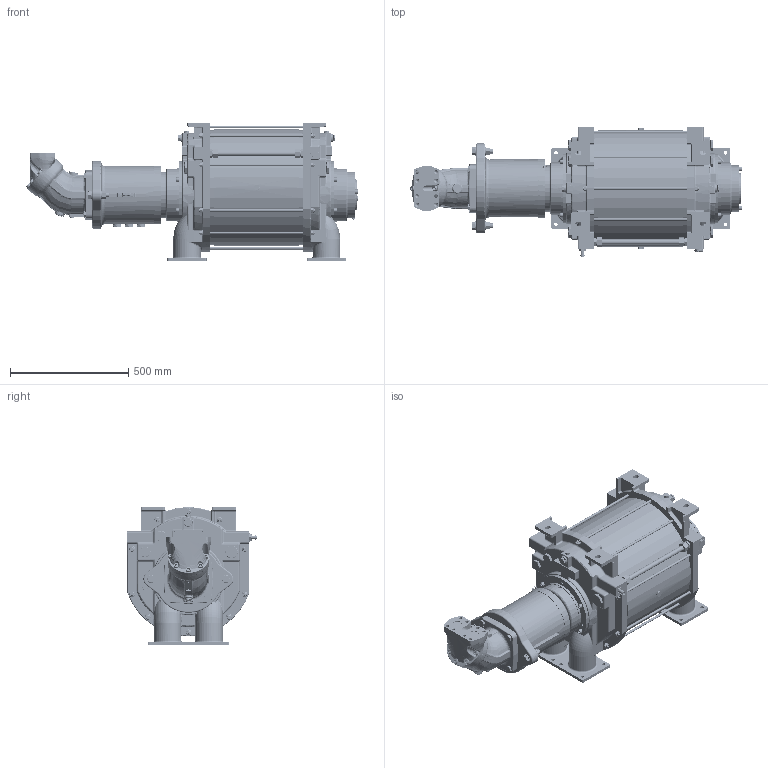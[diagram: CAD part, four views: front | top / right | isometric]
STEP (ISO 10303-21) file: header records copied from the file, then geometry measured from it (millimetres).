
FILE_DESCRIPTION(/* description */ (''),/* implementation_level */ '2;1');
FILE_NAME(/* name */ '1700045B.stp',/* time_stamp */ '2025-04-24T10:37:53+02:00',/* author */ ('JJ'),/* organization */ (''),/* preprocessor_version */ 'ST-DEVELOPER v20',/* originating_system */ 'Autodesk Inventor 2025',/* authorisation */ '');
FILE_SCHEMA (('AUTOMOTIVE_DESIGN { 1 0 10303 214 3 1 1 }'));
Products named in the file (8): 1700045; 1700044 Ready for adaptor; 910000407; 1634769_Simplify_1; 944000089; 932400156; 932400154; 932400155
Assembly tree (10 placements, depth 2):
  1700045
    1700044 Ready for adaptor
    910000407  x4
    1634769_Simplify_1
    944000089
    932400156
    932400154
    932400155
Bounding box: 1401.27 x 545.5 x 585 mm (x, y, z)
Volume: 139333414.4 mm3; surface area: 5057149.2 mm2
Topology: 11 solids, 11 shells, 4594 faces, 11645 edges, 7337 vertices
Faces by surface type: plane 1644, cylinder 1072, bspline 1003, cone 452, torus 302, sphere 121
Full cylindrical faces by diameter (mm): 3 x2, 3.3 x8, 4 x4, 6 x3, 6.5 x1, 6.65 x1, 8 x2, 8.5 x2, 10 x3, 10.106 x8, 10.11 x4, 10.75 x10, 11 x11, 12 x45, 13 x28, 13.835 x8, 13.84 x4, 14 x1, 14.224 x1, 14.917 x4, 15 x17, 16 x4, 17 x1, 17.294 x1, 18 x22, 19 x1, 19.847 x1, 19.984 x1, 20 x9, 20.376 x3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
Entity records: 301793 total; most frequent: CARTESIAN_POINT 194151, ORIENTED_EDGE 22888, DIRECTION 19789, EDGE_CURVE 11444, AXIS2_PLACEMENT_3D 7787, VERTEX_POINT 7259, EDGE_LOOP 5091, FACE_OUTER_BOUND 4531
